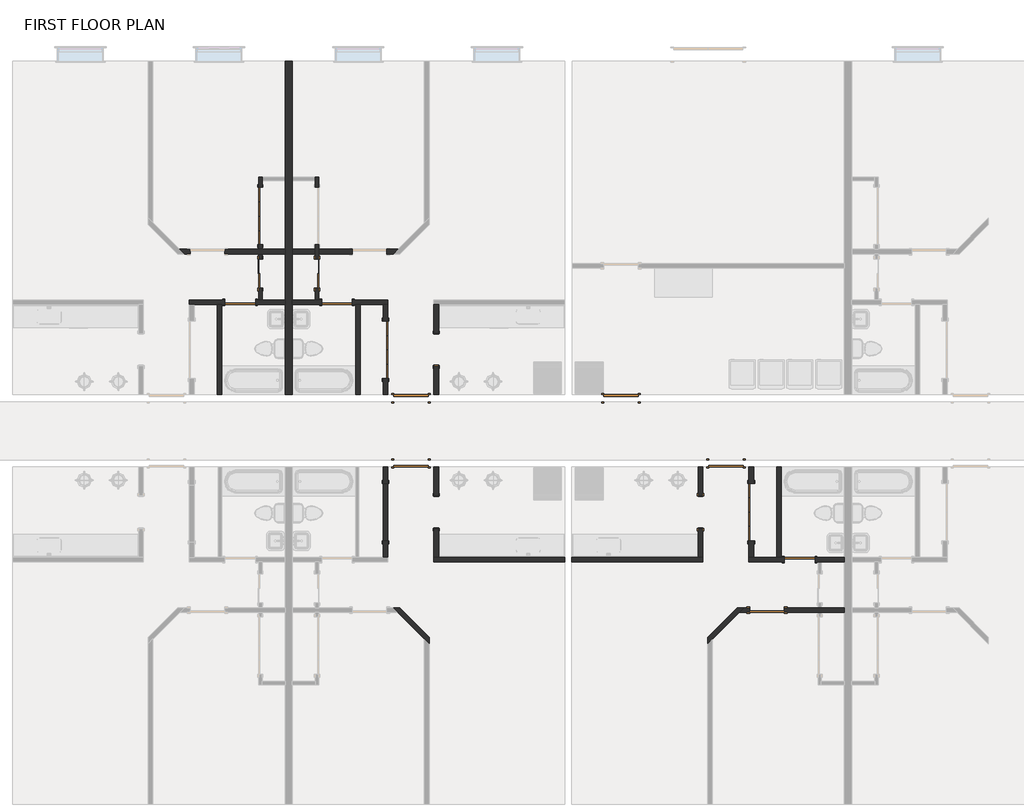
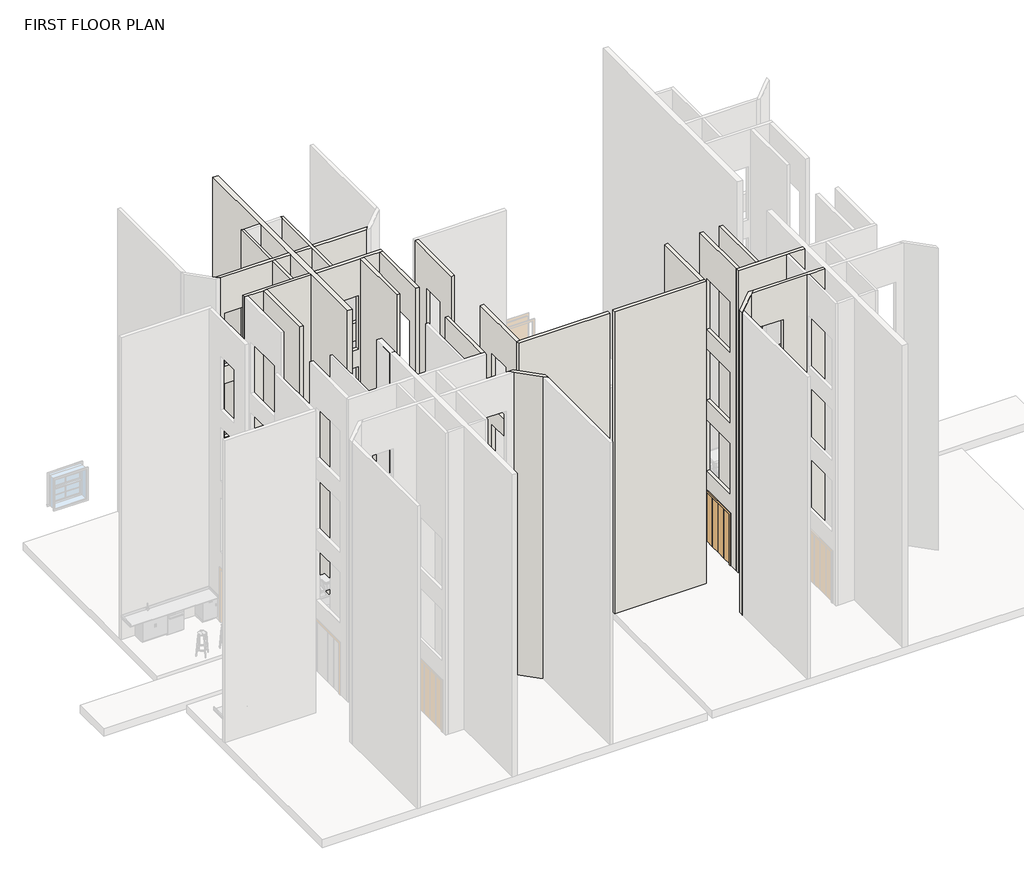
# One storey, part 2 of 7: 25 walls, 17 doors.
"""IFC4 building model written with IfcOpenShell, lengths in millimetres."""

from ifc_helpers import new_model, si_unit, frame, origin, origin_with_axes, place, context, project, spatial, polyline, outline, extrude, faceted_brep, transform, mapped, element, save
from components import door_3f50ce46, door_64f38517, door_d932cd56, door_980512ef, door_37c67c65, door_ff2ed9a9, door_670c294a, m_single_flush_3_x_7_d4803db9, door_dc1527fd, door_ed16ebbe, door_053de108, door_d5256492

model = new_model("IFC4")

# Units and contexts
model_context = context("Model", 3, world=origin())
ifc_project = project(units=[si_unit("LENGTHUNIT", "METRE", prefix="MILLI")], contexts=[model_context])

# Site, building, storey
site = spatial("IfcSite", under=ifc_project)
building = spatial("IfcBuilding", under=site)
storey = spatial("IfcBuildingStorey", under=building, Name="FIRST FLOOR PLAN", Elevation=0.0)

# Doors
placement = place(None, origin())
door_shape = door_3f50ce46(model_context)
element("IfcDoor", 1, ObjectType="Door-Bifold_2-Panel_Flush_SlimFold_Dunbarton : 2'- 6\" x 6' - 8\"", at=placement, inside=storey, context=model_context, shape_type="MappedRepresentation", body=[
    mapped(door_shape, transform((2885.3209578, 9824.3262881, 0.0), x_axis=(0.0, -1.0, 0.0), y_axis=(1.0, 0.0, 0.0), z_axis=(0.0, 0.0, 1.0))),
])
door_2_shape = door_64f38517(model_context)
element("IfcDoor", 2, ObjectType="Door-Bifold_2-Panel_Flush_SlimFold_Dunbarton : 2'- 6\" x 6' - 8\"", at=placement, inside=storey, context=model_context, shape_type="MappedRepresentation", body=[
    mapped(door_2_shape, transform((1351.2960171, 9824.3262881, 0.0), x_axis=(0.0, -1.0, 0.0), y_axis=(1.0, 0.0, 0.0), z_axis=(0.0, 0.0, 1.0))),
])
door_3_shape = door_d932cd56(model_context)
element("IfcDoor", 3, ObjectType="Door-Bifold 4-Panel Flush SlimFold_Dunbarton : 5'- 0\" x 6' - 8\"", at=placement, inside=storey, context=model_context, shape_type="MappedRepresentation", body=[
    mapped(door_3_shape, transform((4703.0084578, 7654.2137881, 0.0), x_axis=(0.0, -1.0, 0.0), y_axis=(1.0, 0.0, 0.0), z_axis=(0.0, 0.0, 1.0))),
])
element("IfcDoor", 4, ObjectType="Door-Bifold 4-Panel Flush SlimFold_Dunbarton : 5'- 0\" x 6' - 8\"", at=placement, inside=storey, context=model_context, shape_type="MappedRepresentation", body=[
    mapped(door_3_shape, transform((14358.8085171, 3345.4137881, 0.0), x_axis=(0.0, 1.0, 0.0), y_axis=(-1.0, 0.0, 0.0), z_axis=(0.0, 0.0, 1.0))),
])
door_4_shape = door_980512ef(model_context)
element("IfcDoor", 5, ObjectType="Door-Bifold 4-Panel Flush SlimFold_Dunbarton : 5'- 0\" x 6' - 8\"", at=placement, inside=storey, context=model_context, shape_type="MappedRepresentation", body=[
    mapped(door_4_shape, transform((4703.0084578, 3345.4137881, 0.0), x_axis=(0.0, 1.0, 0.0), y_axis=(-1.0, 0.0, 0.0), z_axis=(0.0, 0.0, 1.0))),
])
door_5_shape = door_37c67c65(model_context)
element("IfcDoor", 6, ObjectType="Door-Bifold 4-Panel Flush SlimFold_Dunbarton : 5'- 0\" x 6' - 8\"", at=placement, inside=storey, context=model_context, shape_type="MappedRepresentation", body=[
    mapped(door_5_shape, transform((1351.2960171, 11195.9262881, 0.0), x_axis=(0.0, -1.0, 0.0), y_axis=(1.0, 0.0, 0.0), z_axis=(0.0, 0.0, 1.0))),
])
door_6_shape = door_ff2ed9a9(model_context)
element("IfcDoor", 7, ObjectType="M_Opening-Cased : 2'-10\"", at=placement, inside=storey, context=model_context, shape_type="MappedRepresentation", body=[
    mapped(door_6_shape, transform((6030.0709875, 3337.2251313, 0.0), x_axis=(0.0, -1.0, 0.0), y_axis=(1.0, 0.0, 0.0), z_axis=(0.0, 0.0, 1.0))),
])
door_7_shape = door_670c294a(model_context)
element("IfcDoor", 8, ObjectType="M_Opening-Cased : 2'-10\"", at=placement, inside=storey, context=model_context, shape_type="MappedRepresentation", body=[
    mapped(door_7_shape, transform((6030.0709875, 7662.4024448, 0.0), x_axis=(0.0, 1.0, 0.0), y_axis=(-1.0, 0.0, 0.0), z_axis=(0.0, 0.0, 1.0))),
])
element("IfcDoor", 9, ObjectType="M_Opening-Cased : 2'-10\"", at=placement, inside=storey, context=model_context, shape_type="MappedRepresentation", body=[
    mapped(door_7_shape, transform((13031.7459875, 3337.2251313, 0.0), x_axis=(0.0, -1.0, 0.0), y_axis=(1.0, 0.0, 0.0), z_axis=(0.0, 0.0, 1.0))),
])
m_single_flush_3_x_7_shape = m_single_flush_3_x_7_d4803db9(model_context)
element("IfcDoor", 10, ObjectType="M_Single-Flush : 3' x 7'", at=placement, inside=storey, context=model_context, shape_type="MappedRepresentation", body=[
    mapped(m_single_flush_3_x_7_shape, transform((14795.6209875, 746.6762881, 0.0), x_axis=(-1.0, 0.0, 0.0), y_axis=(0.0, -1.0, 0.0), z_axis=(0.0, 0.0, 1.0))),
])
door_8_shape = door_dc1527fd(model_context)
element("IfcDoor", 11, ObjectType="Single-Flush : 32\" X 84\"", at=placement, inside=storey, context=model_context, shape_type="MappedRepresentation", body=[
    mapped(door_8_shape, transform((834.0209875, 8909.9262881, 0.0), x_axis=(-1.0, 0.0, 0.0), y_axis=(0.0, -1.0, 0.0), z_axis=(0.0, 0.0, 1.0))),
])
door_9_shape = door_ed16ebbe(model_context)
element("IfcDoor", 12, ObjectType="Single-Flush : 32\" X 84\"", at=placement, inside=storey, context=model_context, shape_type="MappedRepresentation", body=[
    mapped(door_9_shape, transform((3402.5959875, 8909.9262881, 0.0), x_axis=(1.0, 0.0, 0.0), y_axis=(0.0, 1.0, 0.0), z_axis=(0.0, 0.0, 1.0))),
])
element("IfcDoor", 13, ObjectType="Single-Flush : 32\" X 84\"", at=placement, inside=storey, context=model_context, shape_type="MappedRepresentation", body=[
    mapped(door_9_shape, transform((15659.2209875, 2089.7012881, 0.0), x_axis=(-1.0, 0.0, 0.0), y_axis=(0.0, -1.0, 0.0), z_axis=(0.0, 0.0, 1.0))),
])
door_10_shape = door_053de108(model_context)
element("IfcDoor", 14, ObjectType="Single-Flush : 36' x 84\"", at=placement, inside=storey, context=model_context, shape_type="MappedRepresentation", body=[
    mapped(door_10_shape, transform((5358.5584875, 6363.4137881, 0.0), x_axis=(1.0, 0.0, 0.0), y_axis=(0.0, 1.0, 0.0), z_axis=(0.0, 0.0, 1.0))),
])
element("IfcDoor", 15, ObjectType="Single-Flush : 36' x 84\"", at=placement, inside=storey, context=model_context, shape_type="MappedRepresentation", body=[
    mapped(door_10_shape, transform((13703.2584875, 4636.2137881, 0.0), x_axis=(-1.0, 0.0, 0.0), y_axis=(0.0, -1.0, 0.0), z_axis=(0.0, 0.0, 1.0))),
])
door_11_shape = door_d5256492(model_context)
element("IfcDoor", 16, ObjectType="Single-Flush : 36' x 84\"", at=placement, inside=storey, context=model_context, shape_type="MappedRepresentation", body=[
    mapped(door_11_shape, transform((10922.9084875, 6363.4137881, 0.0), x_axis=(-1.0, 0.0, 0.0), y_axis=(0.0, -1.0, 0.0), z_axis=(0.0, 0.0, 1.0))),
])
element("IfcDoor", 17, ObjectType="Single-Flush : 36' x 84\"", at=placement, inside=storey, context=model_context, shape_type="MappedRepresentation", body=[
    mapped(door_11_shape, transform((5358.5584875, 4636.2137881, 0.0), x_axis=(1.0, 0.0, 0.0), y_axis=(0.0, 1.0, 0.0), z_axis=(0.0, 0.0, 1.0))),
])

# Walls
element("IfcWall", 18, ObjectType="A30A - 8\" MASONRY WALL", at=placement, inside=storey, context=model_context, shape_type="Brep", body=[
    faceted_brep([(2021.3084875, 15304.2137881, 0.0), (2021.3084875, 12227.8012881, 0.0), (2021.3084875, 12138.9012881, 0.0), (2021.3084875, 10314.8637881, 0.0), (2021.3084875, 10191.0387881, 0.0), (2021.3084875, 8971.8387881, 0.0), (2021.3084875, 8848.0137881, 0.0), (2021.3084875, 6460.4137881, 0.0), (2021.3084875, 6460.4137881, 12141.2), (2021.3084875, 8848.0137881, 12141.2), (2021.3084875, 8971.8387881, 12141.2), (2021.3084875, 10191.0387881, 12141.2), (2021.3084875, 10314.8637881, 12141.2), (2021.3084875, 12138.9012881, 12141.2), (2021.3084875, 12227.8012881, 12141.2), (2021.3084875, 15304.2137881, 12141.2), (2215.3084875, 15304.2137881, 0.0), (2215.3084875, 15304.2137881, 12141.2), (2215.3084875, 12227.8012881, 12141.2), (2215.3084875, 12138.9012881, 12141.2), (2215.3084875, 10314.8637881, 12141.2), (2215.3084875, 10191.0387881, 12141.2), (2215.3084875, 8971.8387881, 12141.2), (2215.3084875, 8848.0137881, 12141.2), (2215.3084875, 6460.4137881, 12141.2), (2215.3084875, 6460.4137881, 0.0), (2215.3084875, 8848.0137881, 0.0), (2215.3084875, 8971.8387881, 0.0), (2215.3084875, 10191.0387881, 0.0), (2215.3084875, 10314.8637881, 0.0), (2215.3084875, 12138.9012881, 0.0), (2215.3084875, 12227.8012881, 0.0)], [[[0, 1, 2, 3, 4, 5, 6, 7, 8, 9, 10, 11, 12, 13, 14, 15]], [[16, 17, 18, 19, 20, 21, 22, 23, 24, 25, 26, 27, 28, 29, 30, 31]], [[7, 6, 5, 4, 3, 2, 1, 0, 16, 31, 30, 29, 28, 27, 26, 25]], [[15, 14, 13, 12, 11, 10, 9, 8, 24, 23, 22, 21, 20, 19, 18, 17]], [[0, 15, 17, 16]], [[8, 7, 25, 24]]]),
])
element("IfcWall", 19, ObjectType="A30A - 8\" MASONRY WALL", at=placement, inside=storey, context=model_context, shape_type="SweptSolid", body=[
    extrude(outline(polyline([(2215.3084875, 4539.2137881), (2215.3084875, 3662.9137881), (2021.3084875, 3662.9137881), (2021.3084875, 4539.2137881), (2215.3084875, 4539.2137881)])), origin_with_axes(), (0.0, 0.0, 1.0), 12141.2),
])
element("IfcWall", 20, ObjectType="Generic - 3 1/2\"", at=placement, inside=storey, context=model_context, shape_type="Brep", body=[
    faceted_brep([(1411.7084875, 12227.8012881, 0.0), (1411.7084875, 12227.8012881, 12141.2), (1411.7084875, 12138.9012881, 12141.2), (1411.7084875, 10314.8637881, 12141.2), (1411.7084875, 10314.8637881, 0.0), (1411.7084875, 10433.9262881, 0.0), (1411.7084875, 10433.9262881, 2032.0), (1411.7084875, 11957.9262881, 2032.0), (1411.7084875, 11957.9262881, 0.0), (1411.7084875, 12138.9012881, 0.0), (1411.7084875, 11961.1012881, 4876.8), (1411.7084875, 11961.1012881, 2844.8), (1411.7084875, 10437.1012881, 2844.8), (1411.7084875, 10437.1012881, 4876.8), (1411.7084875, 11961.1012881, 7721.6), (1411.7084875, 11961.1012881, 5689.6), (1411.7084875, 10437.1012881, 5689.6), (1411.7084875, 10437.1012881, 7721.6), (1411.7084875, 11961.1012881, 10566.4), (1411.7084875, 11961.1012881, 8534.4), (1411.7084875, 10437.1012881, 8534.4), (1411.7084875, 10437.1012881, 10566.4), (1322.8084875, 12227.8012881, 12141.2), (1322.8084875, 12227.8012881, 0.0), (1322.8084875, 11957.9262881, 0.0), (1322.8084875, 11957.9262881, 2032.0), (1322.8084875, 10433.9262881, 2032.0), (1322.8084875, 10433.9262881, 0.0), (1322.8084875, 10314.8637881, 0.0), (1322.8084875, 10314.8637881, 12141.2), (1322.8084875, 11961.1012881, 2844.8), (1322.8084875, 11961.1012881, 4876.8), (1322.8084875, 10437.1012881, 4876.8), (1322.8084875, 10437.1012881, 2844.8), (1322.8084875, 11961.1012881, 5689.6), (1322.8084875, 11961.1012881, 7721.6), (1322.8084875, 10437.1012881, 7721.6), (1322.8084875, 10437.1012881, 5689.6), (1322.8084875, 11961.1012881, 8534.4), (1322.8084875, 11961.1012881, 10566.4), (1322.8084875, 10437.1012881, 10566.4), (1322.8084875, 10437.1012881, 8534.4)], [[[0, 1, 2, 3, 4, 5, 6, 7, 8, 9], [10, 11, 12, 13], [14, 15, 16, 17], [18, 19, 20, 21]], [[22, 23, 24, 25, 26, 27, 28, 29], [30, 31, 32, 33], [34, 35, 36, 37], [38, 39, 40, 41]], [[23, 0, 9, 8, 24]], [[27, 5, 4, 28]], [[1, 22, 29, 3, 2]], [[1, 0, 23, 22]], [[26, 6, 5, 27]], [[6, 26, 25, 7]], [[7, 25, 24, 8]], [[4, 3, 29, 28]], [[31, 30, 11, 10]], [[32, 31, 10, 13]], [[33, 32, 13, 12]], [[30, 33, 12, 11]], [[35, 34, 15, 14]], [[36, 35, 14, 17]], [[37, 36, 17, 16]], [[34, 37, 16, 15]], [[39, 38, 19, 18]], [[40, 39, 18, 21]], [[41, 40, 21, 20]], [[38, 41, 20, 19]]]),
    faceted_brep([(1411.7084875, 8971.8387881, 12141.2), (1411.7084875, 8971.8387881, 0.0), (1411.7084875, 9290.9262881, 0.0), (1411.7084875, 9290.9262881, 2032.0), (1411.7084875, 10052.9262881, 2032.0), (1411.7084875, 10052.9262881, 0.0), (1411.7084875, 10191.0387881, 0.0), (1411.7084875, 10191.0387881, 12141.2), (1411.7084875, 9297.2762881, 2844.8), (1411.7084875, 9297.2762881, 4876.8), (1411.7084875, 10059.2762881, 4876.8), (1411.7084875, 10059.2762881, 2844.8), (1411.7084875, 9297.2762881, 5689.6), (1411.7084875, 9297.2762881, 7721.6), (1411.7084875, 10059.2762881, 7721.6), (1411.7084875, 10059.2762881, 5689.6), (1411.7084875, 9297.2762881, 8534.4), (1411.7084875, 9297.2762881, 10566.4), (1411.7084875, 10059.2762881, 10566.4), (1411.7084875, 10059.2762881, 8534.4), (1322.8084875, 8971.8387881, 0.0), (1322.8084875, 8971.8387881, 12141.2), (1322.8084875, 10191.0387881, 12141.2), (1322.8084875, 10191.0387881, 0.0), (1322.8084875, 10052.9262881, 0.0), (1322.8084875, 10052.9262881, 2032.0), (1322.8084875, 9290.9262881, 2032.0), (1322.8084875, 9290.9262881, 0.0), (1322.8084875, 9297.2762881, 4876.8), (1322.8084875, 9297.2762881, 2844.8), (1322.8084875, 10059.2762881, 2844.8), (1322.8084875, 10059.2762881, 4876.8), (1322.8084875, 9297.2762881, 7721.6), (1322.8084875, 9297.2762881, 5689.6), (1322.8084875, 10059.2762881, 5689.6), (1322.8084875, 10059.2762881, 7721.6), (1322.8084875, 9297.2762881, 10566.4), (1322.8084875, 9297.2762881, 8534.4), (1322.8084875, 10059.2762881, 8534.4), (1322.8084875, 10059.2762881, 10566.4)], [[[0, 1, 2, 3, 4, 5, 6, 7], [8, 9, 10, 11], [12, 13, 14, 15], [16, 17, 18, 19]], [[20, 21, 22, 23, 24, 25, 26, 27], [28, 29, 30, 31], [32, 33, 34, 35], [36, 37, 38, 39]], [[1, 20, 27, 2]], [[5, 24, 23, 6]], [[21, 0, 7, 22]], [[7, 6, 23, 22]], [[1, 0, 21, 20]], [[25, 4, 3, 26]], [[4, 25, 24, 5]], [[26, 3, 2, 27]], [[9, 8, 29, 28]], [[10, 9, 28, 31]], [[11, 10, 31, 30]], [[8, 11, 30, 29]], [[13, 12, 33, 32]], [[14, 13, 32, 35]], [[15, 14, 35, 34]], [[12, 15, 34, 33]], [[17, 16, 37, 36]], [[18, 17, 36, 39]], [[19, 18, 39, 38]], [[16, 19, 38, 37]]]),
])
element("IfcWall", 21, ObjectType="Generic - 3 1/2\"", at=placement, inside=storey, context=model_context, shape_type="Brep", body=[
    faceted_brep([(2913.8084875, 12227.8012881, 12141.2), (2913.8084875, 10314.8637881, 12141.2), (2913.8084875, 10191.0387881, 12141.2), (2913.8084875, 8971.8387881, 12141.2), (2913.8084875, 8971.8387881, 0.0), (2913.8084875, 9290.9262881, 0.0), (2913.8084875, 9290.9262881, 2032.0), (2913.8084875, 10052.9262881, 2032.0), (2913.8084875, 10052.9262881, 0.0), (2913.8084875, 10191.0387881, 0.0), (2913.8084875, 10314.8637881, 0.0), (2913.8084875, 10433.9262881, 0.0), (2913.8084875, 10433.9262881, 2032.0), (2913.8084875, 11957.9262881, 2032.0), (2913.8084875, 11957.9262881, 0.0), (2913.8084875, 12227.8012881, 0.0), (2913.8084875, 10437.1012881, 2844.8), (2913.8084875, 10437.1012881, 4876.8), (2913.8084875, 11961.1012881, 4876.8), (2913.8084875, 11961.1012881, 2844.8), (2913.8084875, 9297.2762881, 2844.8), (2913.8084875, 9297.2762881, 4876.8), (2913.8084875, 10059.2762881, 4876.8), (2913.8084875, 10059.2762881, 2844.8), (2913.8084875, 10437.1012881, 5689.6), (2913.8084875, 10437.1012881, 7721.6), (2913.8084875, 11961.1012881, 7721.6), (2913.8084875, 11961.1012881, 5689.6), (2913.8084875, 9297.2762881, 5689.6), (2913.8084875, 9297.2762881, 7721.6), (2913.8084875, 10059.2762881, 7721.6), (2913.8084875, 10059.2762881, 5689.6), (2913.8084875, 10437.1012881, 8534.4), (2913.8084875, 10437.1012881, 10566.4), (2913.8084875, 11961.1012881, 10566.4), (2913.8084875, 11961.1012881, 8534.4), (2913.8084875, 9297.2762881, 8534.4), (2913.8084875, 9297.2762881, 10566.4), (2913.8084875, 10059.2762881, 10566.4), (2913.8084875, 10059.2762881, 8534.4), (2824.9084875, 8971.8387881, 12141.2), (2824.9084875, 10191.0387881, 12141.2), (2824.9084875, 10314.8637881, 12141.2), (2824.9084875, 12138.9012881, 12141.2), (2824.9084875, 12227.8012881, 12141.2), (2824.9084875, 12227.8012881, 0.0), (2824.9084875, 12138.9012881, 0.0), (2824.9084875, 11957.9262881, 0.0), (2824.9084875, 11957.9262881, 2032.0), (2824.9084875, 10433.9262881, 2032.0), (2824.9084875, 10433.9262881, 0.0), (2824.9084875, 10314.8637881, 0.0), (2824.9084875, 10191.0387881, 0.0), (2824.9084875, 10052.9262881, 0.0), (2824.9084875, 10052.9262881, 2032.0), (2824.9084875, 9290.9262881, 2032.0), (2824.9084875, 9290.9262881, 0.0), (2824.9084875, 8971.8387881, 0.0), (2824.9084875, 10437.1012881, 2844.8), (2824.9084875, 11961.1012881, 2844.8), (2824.9084875, 11961.1012881, 4876.8), (2824.9084875, 10437.1012881, 4876.8), (2824.9084875, 9297.2762881, 2844.8), (2824.9084875, 10059.2762881, 2844.8), (2824.9084875, 10059.2762881, 4876.8), (2824.9084875, 9297.2762881, 4876.8), (2824.9084875, 10437.1012881, 5689.6), (2824.9084875, 11961.1012881, 5689.6), (2824.9084875, 11961.1012881, 7721.6), (2824.9084875, 10437.1012881, 7721.6), (2824.9084875, 9297.2762881, 5689.6), (2824.9084875, 10059.2762881, 5689.6), (2824.9084875, 10059.2762881, 7721.6), (2824.9084875, 9297.2762881, 7721.6), (2824.9084875, 10437.1012881, 8534.4), (2824.9084875, 11961.1012881, 8534.4), (2824.9084875, 11961.1012881, 10566.4), (2824.9084875, 10437.1012881, 10566.4), (2824.9084875, 9297.2762881, 8534.4), (2824.9084875, 10059.2762881, 8534.4), (2824.9084875, 10059.2762881, 10566.4), (2824.9084875, 9297.2762881, 10566.4)], [[[0, 1, 2, 3, 4, 5, 6, 7, 8, 9, 10, 11, 12, 13, 14, 15], [16, 17, 18, 19], [20, 21, 22, 23], [24, 25, 26, 27], [28, 29, 30, 31], [32, 33, 34, 35], [36, 37, 38, 39]], [[40, 41, 42, 43, 44, 45, 46, 47, 48, 49, 50, 51, 52, 53, 54, 55, 56, 57], [58, 59, 60, 61], [62, 63, 64, 65], [66, 67, 68, 69], [70, 71, 72, 73], [74, 75, 76, 77], [78, 79, 80, 81]], [[45, 15, 14, 47, 46]], [[50, 11, 10, 9, 8, 53, 52, 51]], [[4, 57, 56, 5]], [[3, 2, 1, 0, 44, 43, 42, 41, 40]], [[0, 15, 45, 44]], [[49, 12, 11, 50]], [[12, 49, 48, 13]], [[13, 48, 47, 14]], [[4, 3, 40, 57]], [[6, 55, 54, 7]], [[7, 54, 53, 8]], [[55, 6, 5, 56]], [[17, 16, 58, 61]], [[18, 17, 61, 60]], [[19, 18, 60, 59]], [[16, 19, 59, 58]], [[21, 20, 62, 65]], [[22, 21, 65, 64]], [[23, 22, 64, 63]], [[20, 23, 63, 62]], [[25, 24, 66, 69]], [[26, 25, 69, 68]], [[27, 26, 68, 67]], [[24, 27, 67, 66]], [[29, 28, 70, 73]], [[30, 29, 73, 72]], [[31, 30, 72, 71]], [[28, 31, 71, 70]], [[33, 32, 74, 77]], [[34, 33, 77, 76]], [[35, 34, 76, 75]], [[32, 35, 75, 74]], [[37, 36, 78, 81]], [[38, 37, 81, 80]], [[39, 38, 80, 79]], [[36, 39, 79, 78]]]),
])
element("IfcWall", 22, ObjectType="Generic - 4 7/8\"", at=placement, inside=storey, context=model_context, shape_type="Brep", body=[
    faceted_brep([(-512.3415125, 8848.0137881, 0.0), (-388.5165125, 8848.0137881, 0.0), (221.0834875, 8848.0137881, 0.0), (344.9084875, 8848.0137881, 0.0), (427.6209875, 8848.0137881, 0.0), (427.6209875, 8848.0137881, 2133.6), (1240.4209875, 8848.0137881, 2133.6), (1240.4209875, 8848.0137881, 0.0), (2021.3084875, 8848.0137881, 0.0), (2021.3084875, 8848.0137881, 12141.2), (344.9084875, 8848.0137881, 12141.2), (221.0834875, 8848.0137881, 12141.2), (-388.5165125, 8848.0137881, 12141.2), (-512.3415125, 8848.0137881, 12141.2), (1240.4209875, 8848.0137881, 2844.8), (427.6209875, 8848.0137881, 2844.8), (427.6209875, 8848.0137881, 4978.4), (1240.4209875, 8848.0137881, 4978.4), (1240.4209875, 8848.0137881, 5689.6), (427.6209875, 8848.0137881, 5689.6), (427.6209875, 8848.0137881, 7823.2), (1240.4209875, 8848.0137881, 7823.2), (1240.4209875, 8848.0137881, 8534.4), (427.6209875, 8848.0137881, 8534.4), (427.6209875, 8848.0137881, 10668.0), (1240.4209875, 8848.0137881, 10668.0), (427.6209875, 8971.8387881, 2133.6), (427.6209875, 8971.8387881, 0.0), (-512.3415125, 8971.8387881, 0.0), (-512.3415125, 8971.8387881, 12141.2), (1322.8084875, 8971.8387881, 12141.2), (1411.7084875, 8971.8387881, 12141.2), (2021.3084875, 8971.8387881, 12141.2), (2021.3084875, 8971.8387881, 0.0), (1411.7084875, 8971.8387881, 0.0), (1322.8084875, 8971.8387881, 0.0), (1240.4209875, 8971.8387881, 0.0), (1240.4209875, 8971.8387881, 2133.6), (1240.4209875, 8971.8387881, 2844.8), (1240.4209875, 8971.8387881, 4978.4), (427.6209875, 8971.8387881, 4978.4), (427.6209875, 8971.8387881, 2844.8), (1240.4209875, 8971.8387881, 5689.6), (1240.4209875, 8971.8387881, 7823.2), (427.6209875, 8971.8387881, 7823.2), (427.6209875, 8971.8387881, 5689.6), (1240.4209875, 8971.8387881, 8534.4), (1240.4209875, 8971.8387881, 10668.0), (427.6209875, 8971.8387881, 10668.0), (427.6209875, 8971.8387881, 8534.4)], [[[0, 1, 2, 3, 4, 5, 6, 7, 8, 9, 10, 11, 12, 13], [14, 15, 16, 17], [18, 19, 20, 21], [22, 23, 24, 25]], [[26, 27, 28, 29, 30, 31, 32, 33, 34, 35, 36, 37], [38, 39, 40, 41], [42, 43, 44, 45], [46, 47, 48, 49]], [[28, 27, 4, 3, 2, 1, 0]], [[36, 35, 34, 33, 8, 7]], [[13, 12, 11, 10, 9, 32, 31, 30, 29]], [[9, 8, 33, 32]], [[15, 14, 38, 41]], [[16, 15, 41, 40]], [[17, 16, 40, 39]], [[14, 17, 39, 38]], [[0, 13, 29, 28]], [[5, 4, 27, 26]], [[6, 5, 26, 37]], [[7, 6, 37, 36]], [[19, 18, 42, 45]], [[20, 19, 45, 44]], [[21, 20, 44, 43]], [[18, 21, 43, 42]], [[23, 22, 46, 49]], [[24, 23, 49, 48]], [[25, 24, 48, 47]], [[22, 25, 47, 46]]]),
])
element("IfcWall", 23, ObjectType="Generic - 4 7/8\"", at=placement, inside=storey, context=model_context, shape_type="SweptSolid", body=[
    extrude(outline(polyline([(221.0834875, 6460.4137881), (221.0834875, 8848.0137881), (344.9084875, 8848.0137881), (344.9084875, 6460.4137881), (221.0834875, 6460.4137881)])), origin_with_axes(), (0.0, 0.0, 1.0), 12141.2),
])
element("IfcWall", 24, ObjectType="Generic - 4 7/8\"", at=placement, inside=storey, context=model_context, shape_type="Brep", body=[
    faceted_brep([(-486.7790125, 10314.8637881, 2133.6), (-486.7790125, 10314.8637881, 0.0), (-773.5985736, 10314.8637881, 0.0), (-773.5985736, 10314.8637881, 12141.2), (1322.8084875, 10314.8637881, 12141.2), (1411.7084875, 10314.8637881, 12141.2), (2021.3084875, 10314.8637881, 12141.2), (2021.3084875, 10314.8637881, 0.0), (1411.7084875, 10314.8637881, 0.0), (1322.8084875, 10314.8637881, 0.0), (427.6209875, 10314.8637881, 0.0), (427.6209875, 10314.8637881, 2133.6), (427.6209875, 10314.8637881, 2844.8), (427.6209875, 10314.8637881, 4978.4), (-486.7790125, 10314.8637881, 4978.4), (-486.7790125, 10314.8637881, 2844.8), (427.6209875, 10314.8637881, 5689.6), (427.6209875, 10314.8637881, 7823.2), (-486.7790125, 10314.8637881, 7823.2), (-486.7790125, 10314.8637881, 5689.6), (427.6209875, 10314.8637881, 8534.4), (427.6209875, 10314.8637881, 10668.0), (-486.7790125, 10314.8637881, 10668.0), (-486.7790125, 10314.8637881, 8534.4), (-649.7735736, 10191.0387881, 0.0), (-486.7790125, 10191.0387881, 0.0), (-486.7790125, 10191.0387881, 2133.6), (427.6209875, 10191.0387881, 2133.6), (427.6209875, 10191.0387881, 0.0), (1322.8084875, 10191.0387881, 0.0), (1411.7084875, 10191.0387881, 0.0), (2021.3084875, 10191.0387881, 0.0), (2021.3084875, 10191.0387881, 12141.2), (1411.7084875, 10191.0387881, 12141.2), (1322.8084875, 10191.0387881, 12141.2), (-649.7735736, 10191.0387881, 12141.2), (427.6209875, 10191.0387881, 2844.8), (-486.7790125, 10191.0387881, 2844.8), (-486.7790125, 10191.0387881, 4978.4), (427.6209875, 10191.0387881, 4978.4), (427.6209875, 10191.0387881, 5689.6), (-486.7790125, 10191.0387881, 5689.6), (-486.7790125, 10191.0387881, 7823.2), (427.6209875, 10191.0387881, 7823.2), (427.6209875, 10191.0387881, 8534.4), (-486.7790125, 10191.0387881, 8534.4), (-486.7790125, 10191.0387881, 10668.0), (427.6209875, 10191.0387881, 10668.0)], [[[0, 1, 2, 3, 4, 5, 6, 7, 8, 9, 10, 11], [12, 13, 14, 15], [16, 17, 18, 19], [20, 21, 22, 23]], [[24, 25, 26, 27, 28, 29, 30, 31, 32, 33, 34, 35], [36, 37, 38, 39], [40, 41, 42, 43], [44, 45, 46, 47]], [[2, 1, 25, 24]], [[10, 9, 8, 7, 31, 30, 29, 28]], [[6, 5, 4, 3, 35, 34, 33, 32]], [[7, 6, 32, 31]], [[26, 25, 1, 0]], [[27, 26, 0, 11]], [[28, 27, 11, 10]], [[3, 2, 24, 35]], [[37, 36, 12, 15]], [[38, 37, 15, 14]], [[39, 38, 14, 13]], [[36, 39, 13, 12]], [[41, 40, 16, 19]], [[42, 41, 19, 18]], [[43, 42, 18, 17]], [[40, 43, 17, 16]], [[45, 44, 20, 23]], [[46, 45, 23, 22]], [[47, 46, 22, 21]], [[44, 47, 21, 20]]]),
])
element("IfcWall", 25, ObjectType="Generic - 4 7/8\"", at=placement, inside=storey, context=model_context, shape_type="Brep", body=[
    faceted_brep([(4748.9584875, 8971.8387881, 0.0), (3808.9959875, 8971.8387881, 0.0), (3808.9959875, 8971.8387881, 2133.6), (2996.1959875, 8971.8387881, 2133.6), (2996.1959875, 8971.8387881, 0.0), (2913.8084875, 8971.8387881, 0.0), (2824.9084875, 8971.8387881, 0.0), (2215.3084875, 8971.8387881, 0.0), (2215.3084875, 8971.8387881, 12141.2), (2824.9084875, 8971.8387881, 12141.2), (2913.8084875, 8971.8387881, 12141.2), (4748.9584875, 8971.8387881, 12141.2), (2996.1959875, 8971.8387881, 2844.8), (3808.9959875, 8971.8387881, 2844.8), (3808.9959875, 8971.8387881, 4978.4), (2996.1959875, 8971.8387881, 4978.4), (2996.1959875, 8971.8387881, 5689.6), (3808.9959875, 8971.8387881, 5689.6), (3808.9959875, 8971.8387881, 7823.2), (2996.1959875, 8971.8387881, 7823.2), (2996.1959875, 8971.8387881, 8534.4), (3808.9959875, 8971.8387881, 8534.4), (3808.9959875, 8971.8387881, 10668.0), (2996.1959875, 8971.8387881, 10668.0), (3808.9959875, 8848.0137881, 2133.6), (3808.9959875, 8848.0137881, 0.0), (3891.7084875, 8848.0137881, 0.0), (4015.5334875, 8848.0137881, 0.0), (4625.1334875, 8848.0137881, 0.0), (4748.9584875, 8848.0137881, 0.0), (4748.9584875, 8848.0137881, 12141.2), (4625.1334875, 8848.0137881, 12141.2), (4015.5334875, 8848.0137881, 12141.2), (3891.7084875, 8848.0137881, 12141.2), (2215.3084875, 8848.0137881, 12141.2), (2215.3084875, 8848.0137881, 0.0), (2996.1959875, 8848.0137881, 0.0), (2996.1959875, 8848.0137881, 2133.6), (2996.1959875, 8848.0137881, 2844.8), (2996.1959875, 8848.0137881, 4978.4), (3808.9959875, 8848.0137881, 4978.4), (3808.9959875, 8848.0137881, 2844.8), (2996.1959875, 8848.0137881, 5689.6), (2996.1959875, 8848.0137881, 7823.2), (3808.9959875, 8848.0137881, 7823.2), (3808.9959875, 8848.0137881, 5689.6), (2996.1959875, 8848.0137881, 8534.4), (2996.1959875, 8848.0137881, 10668.0), (3808.9959875, 8848.0137881, 10668.0), (3808.9959875, 8848.0137881, 8534.4)], [[[0, 1, 2, 3, 4, 5, 6, 7, 8, 9, 10, 11], [12, 13, 14, 15], [16, 17, 18, 19], [20, 21, 22, 23]], [[24, 25, 26, 27, 28, 29, 30, 31, 32, 33, 34, 35, 36, 37], [38, 39, 40, 41], [42, 43, 44, 45], [46, 47, 48, 49]], [[36, 35, 7, 6, 5, 4]], [[29, 28, 27, 26, 25, 1, 0]], [[11, 10, 9, 8, 34, 33, 32, 31, 30]], [[2, 1, 25, 24]], [[3, 2, 24, 37]], [[4, 3, 37, 36]], [[0, 11, 30, 29]], [[8, 7, 35, 34]], [[13, 12, 38, 41]], [[14, 13, 41, 40]], [[15, 14, 40, 39]], [[12, 15, 39, 38]], [[17, 16, 42, 45]], [[18, 17, 45, 44]], [[19, 18, 44, 43]], [[16, 19, 43, 42]], [[21, 20, 46, 49]], [[22, 21, 49, 48]], [[23, 22, 48, 47]], [[20, 23, 47, 46]]]),
])
element("IfcWall", 26, ObjectType="Generic - 4 7/8\"", at=placement, inside=storey, context=model_context, shape_type="SweptSolid", body=[
    extrude(outline(polyline([(3891.7084875, 6460.4137881), (3891.7084875, 8848.0137881), (4015.5334875, 8848.0137881), (4015.5334875, 6460.4137881), (3891.7084875, 6460.4137881)])), origin_with_axes(), (0.0, 0.0, 1.0), 12141.2),
])
element("IfcWall", 27, ObjectType="Generic - 4 7/8\"", at=placement, inside=storey, context=model_context, shape_type="SweptSolid", body=[
    extrude(outline(polyline([(8848.0137881, 0.0), (8086.0137881, 0.0), (8086.0137881, 2133.6), (7222.4137881, 2133.6), (7222.4137881, 0.0), (6460.4137881, 0.0), (6460.4137881, 12141.2), (8848.0137881, 12141.2), (8848.0137881, 0.0)]), holes=[polyline([(7222.4137881, 4978.4), (7222.4137881, 2844.8), (8086.0137881, 2844.8), (8086.0137881, 4978.4), (7222.4137881, 4978.4)]), polyline([(7222.4137881, 7823.2), (7222.4137881, 5689.6), (8086.0137881, 5689.6), (8086.0137881, 7823.2), (7222.4137881, 7823.2)]), polyline([(7222.4137881, 10668.0), (7222.4137881, 8534.4), (8086.0137881, 8534.4), (8086.0137881, 10668.0), (7222.4137881, 10668.0)])]), frame((5968.1584875, 0.0, 0.0), z_axis=(1.0, 0.0, 0.0), x_axis=(0.0, 1.0, 0.0)), (0.0, 0.0, 1.0), 123.825),
])
element("IfcWall", 28, ObjectType="Generic - 4 7/8\"", at=placement, inside=storey, context=model_context, shape_type="SweptSolid", body=[
    extrude(outline(polyline([(6460.4137881, 12141.2), (8848.0137881, 12141.2), (8848.0137881, 0.0), (8416.2137881, 0.0), (8416.2137881, 2032.0), (6892.2137881, 2032.0), (6892.2137881, 0.0), (6460.4137881, 0.0), (6460.4137881, 12141.2)]), holes=[polyline([(6892.2137881, 2844.8), (8416.2137881, 2844.8), (8416.2137881, 4876.8), (6892.2137881, 4876.8), (6892.2137881, 2844.8)]), polyline([(6892.2137881, 5689.6), (8416.2137881, 5689.6), (8416.2137881, 7721.6), (6892.2137881, 7721.6), (6892.2137881, 5689.6)]), polyline([(6892.2137881, 8534.4), (8416.2137881, 8534.4), (8416.2137881, 10566.4), (6892.2137881, 10566.4), (6892.2137881, 8534.4)])]), frame((4625.1334875, 0.0, 0.0), z_axis=(1.0, 0.0, 0.0), x_axis=(0.0, 1.0, 0.0)), (0.0, 0.0, 1.0), 123.825),
])
element("IfcWall", 29, ObjectType="Generic - 4 7/8\"", at=placement, inside=storey, context=model_context, shape_type="Brep", body=[
    faceted_brep([(9428.1084875, 2151.6137881, 0.0), (6091.9834875, 2151.6137881, 0.0), (5968.1584875, 2151.6137881, 0.0), (5968.1584875, 2151.6137881, 12141.2), (6091.9834875, 2151.6137881, 12141.2), (9428.1084875, 2151.6137881, 12141.2), (9428.1084875, 2027.7887881, 0.0), (9428.1084875, 2027.7887881, 12141.2), (5968.1584875, 2027.7887881, 12141.2), (5968.1584875, 2027.7887881, 0.0)], [[[0, 1, 2, 3, 4, 5]], [[6, 7, 8, 9]], [[2, 1, 0, 6, 9]], [[5, 4, 3, 8, 7]], [[3, 2, 9, 8]], [[0, 5, 7, 6]]]),
])
element("IfcWall", 30, ObjectType="Generic - 4 7/8\"", at=placement, inside=storey, context=model_context, shape_type="SweptSolid", body=[
    extrude(outline(polyline([(2913.6137881, 2133.6), (2913.6137881, 0.0), (2151.6137881, 0.0), (2151.6137881, 12141.2), (4539.2137881, 12141.2), (4539.2137881, 0.0), (3777.2137881, 0.0), (3777.2137881, 2133.6), (2913.6137881, 2133.6)]), holes=[polyline([(3777.2137881, 4978.4), (2862.8137881, 4978.4), (2862.8137881, 2844.8), (3777.2137881, 2844.8), (3777.2137881, 4978.4)]), polyline([(3777.2137881, 7823.2), (2862.8137881, 7823.2), (2862.8137881, 5689.6), (3777.2137881, 5689.6), (3777.2137881, 7823.2)]), polyline([(3777.2137881, 10668.0), (2862.8137881, 10668.0), (2862.8137881, 8534.4), (3777.2137881, 8534.4), (3777.2137881, 10668.0)])]), frame((5968.1584875, 0.0, 0.0), z_axis=(1.0, 0.0, 0.0), x_axis=(0.0, 1.0, 0.0)), (0.0, 0.0, 1.0), 123.825),
])
element("IfcWall", 31, ObjectType="Generic - 4 7/8\"", at=placement, inside=storey, context=model_context, shape_type="SweptSolid", body=[
    extrude(outline(polyline([(2151.6137881, 12141.2), (4539.2137881, 12141.2), (4539.2137881, 0.0), (4107.4137881, 0.0), (4107.4137881, 2032.0), (2583.4137881, 2032.0), (2583.4137881, 0.0), (2151.6137881, 0.0), (2151.6137881, 12141.2)]), holes=[polyline([(4107.4137881, 2844.8), (4107.4137881, 4876.8), (2583.4137881, 4876.8), (2583.4137881, 2844.8), (4107.4137881, 2844.8)]), polyline([(4107.4137881, 5689.6), (4107.4137881, 7721.6), (2583.4137881, 7721.6), (2583.4137881, 5689.6), (4107.4137881, 5689.6)]), polyline([(4107.4137881, 8534.4), (4107.4137881, 10566.4), (2583.4137881, 10566.4), (2583.4137881, 8534.4), (4107.4137881, 8534.4)])]), frame((4625.1334875, 0.0, 0.0), z_axis=(1.0, 0.0, 0.0), x_axis=(0.0, 1.0, 0.0)), (0.0, 0.0, 1.0), 123.825),
])
element("IfcWall", 32, ObjectType="Generic - 4 7/8\"", at=placement, inside=storey, context=model_context, shape_type="Brep", body=[
    faceted_brep([(4886.3905485, 808.5887881, 0.0), (5010.2155485, 684.7637881, 0.0), (5713.9959875, -19.0166509, 0.0), (5837.8209875, -142.8416509, 0.0), (5837.8209875, -142.8416509, 12141.2), (5713.9959875, -19.0166509, 12141.2), (5010.2155485, 684.7637881, 12141.2), (4886.3905485, 808.5887881, 12141.2), (5061.5055429, 808.5887881, 0.0), (5061.5055429, 808.5887881, 12141.2), (5837.8209875, 32.2733435, 12141.2), (5837.8209875, 32.2733435, 0.0)], [[[0, 1, 2, 3, 4, 5, 6, 7]], [[8, 9, 10, 11]], [[3, 2, 1, 0, 8, 11]], [[7, 6, 5, 4, 10, 9]], [[0, 7, 9, 8]], [[4, 3, 11, 10]]]),
])
element("IfcWall", 33, ObjectType="Generic - 4 7/8\"", at=placement, inside=storey, context=model_context, shape_type="Brep", body=[
    faceted_brep([(14312.8584875, 2027.7887881, 0.0), (15252.8209875, 2027.7887881, 0.0), (15252.8209875, 2027.7887881, 2133.6), (16065.6209875, 2027.7887881, 2133.6), (16065.6209875, 2027.7887881, 0.0), (16148.0084875, 2027.7887881, 0.0), (16236.9084875, 2027.7887881, 0.0), (16845.7084875, 2027.7887881, 0.0), (16845.7084875, 2027.7887881, 12141.2), (16236.9084875, 2027.7887881, 12141.2), (16148.0084875, 2027.7887881, 12141.2), (14312.8584875, 2027.7887881, 12141.2), (16060.2084875, 2027.7887881, 2844.8), (15247.4084875, 2027.7887881, 2844.8), (15247.4084875, 2027.7887881, 4978.4), (16060.2084875, 2027.7887881, 4978.4), (16060.2084875, 2027.7887881, 5689.6), (15247.4084875, 2027.7887881, 5689.6), (15247.4084875, 2027.7887881, 7823.2), (16060.2084875, 2027.7887881, 7823.2), (16060.2084875, 2027.7887881, 8534.4), (15247.4084875, 2027.7887881, 8534.4), (15247.4084875, 2027.7887881, 10668.0), (16060.2084875, 2027.7887881, 10668.0), (15252.8209875, 2151.6137881, 2133.6), (15252.8209875, 2151.6137881, 0.0), (15170.1084875, 2151.6137881, 0.0), (15046.2834875, 2151.6137881, 0.0), (14436.6834875, 2151.6137881, 0.0), (14312.8584875, 2151.6137881, 0.0), (14312.8584875, 2151.6137881, 12141.2), (14436.6834875, 2151.6137881, 12141.2), (15046.2834875, 2151.6137881, 12141.2), (15170.1084875, 2151.6137881, 12141.2), (16845.7084875, 2151.6137881, 12141.2), (16845.7084875, 2151.6137881, 0.0), (16065.6209875, 2151.6137881, 0.0), (16065.6209875, 2151.6137881, 2133.6), (16060.2084875, 2151.6137881, 2844.8), (16060.2084875, 2151.6137881, 4978.4), (15247.4084875, 2151.6137881, 4978.4), (15247.4084875, 2151.6137881, 2844.8), (16060.2084875, 2151.6137881, 5689.6), (16060.2084875, 2151.6137881, 7823.2), (15247.4084875, 2151.6137881, 7823.2), (15247.4084875, 2151.6137881, 5689.6), (16060.2084875, 2151.6137881, 8534.4), (16060.2084875, 2151.6137881, 10668.0), (15247.4084875, 2151.6137881, 10668.0), (15247.4084875, 2151.6137881, 8534.4)], [[[0, 1, 2, 3, 4, 5, 6, 7, 8, 9, 10, 11], [12, 13, 14, 15], [16, 17, 18, 19], [20, 21, 22, 23]], [[24, 25, 26, 27, 28, 29, 30, 31, 32, 33, 34, 35, 36, 37], [38, 39, 40, 41], [42, 43, 44, 45], [46, 47, 48, 49]], [[36, 35, 7, 6, 5, 4]], [[29, 28, 27, 26, 25, 1, 0]], [[11, 10, 9, 8, 34, 33, 32, 31, 30]], [[2, 1, 25, 24]], [[3, 2, 24, 37]], [[4, 3, 37, 36]], [[0, 11, 30, 29]], [[8, 7, 35, 34]], [[13, 12, 38, 41]], [[14, 13, 41, 40]], [[15, 14, 40, 39]], [[12, 15, 39, 38]], [[17, 16, 42, 45]], [[18, 17, 45, 44]], [[19, 18, 44, 43]], [[16, 19, 43, 42]], [[21, 20, 46, 49]], [[22, 21, 49, 48]], [[23, 22, 48, 47]], [[20, 23, 47, 46]]]),
])
element("IfcWall", 34, ObjectType="Generic - 4 7/8\"", at=placement, inside=storey, context=model_context, shape_type="SweptSolid", body=[
    extrude(outline(polyline([(15170.1084875, 4539.2137881), (15170.1084875, 2151.6137881), (15046.2834875, 2151.6137881), (15046.2834875, 4539.2137881), (15170.1084875, 4539.2137881)])), origin_with_axes(), (0.0, 0.0, 1.0), 12141.2),
])
element("IfcWall", 35, ObjectType="Generic - 4 7/8\"", at=placement, inside=storey, context=model_context, shape_type="Brep", body=[
    faceted_brep([(9622.1084875, 2027.7887881, 0.0), (13093.6584875, 2027.7887881, 0.0), (13093.6584875, 2027.7887881, 12141.2), (9622.1084875, 2027.7887881, 12141.2), (9622.1084875, 2151.6137881, 0.0), (9622.1084875, 2151.6137881, 12141.2), (12969.8334875, 2151.6137881, 12141.2), (13093.6584875, 2151.6137881, 12141.2), (13093.6584875, 2151.6137881, 0.0), (12969.8334875, 2151.6137881, 0.0)], [[[0, 1, 2, 3]], [[4, 5, 6, 7, 8, 9]], [[1, 0, 4, 9, 8]], [[3, 2, 7, 6, 5]], [[2, 1, 8, 7]], [[0, 3, 5, 4]]]),
])
element("IfcWall", 36, ObjectType="Generic - 4 7/8\"", at=placement, inside=storey, context=model_context, shape_type="SweptSolid", body=[
    extrude(outline(polyline([(2913.6137881, 2133.6), (2913.6137881, 0.0), (2151.6137881, 0.0), (2151.6137881, 12141.2), (4539.2137881, 12141.2), (4539.2137881, 0.0), (3777.2137881, 0.0), (3777.2137881, 2133.6), (2913.6137881, 2133.6)]), holes=[polyline([(3777.2137881, 4978.4), (2862.8137881, 4978.4), (2862.8137881, 2844.8), (3777.2137881, 2844.8), (3777.2137881, 4978.4)]), polyline([(3777.2137881, 7823.2), (2862.8137881, 7823.2), (2862.8137881, 5689.6), (3777.2137881, 5689.6), (3777.2137881, 7823.2)]), polyline([(3777.2137881, 10668.0), (2862.8137881, 10668.0), (2862.8137881, 8534.4), (3777.2137881, 8534.4), (3777.2137881, 10668.0)])]), frame((12969.8334875, 0.0, 0.0), z_axis=(1.0, 0.0, 0.0), x_axis=(0.0, 1.0, 0.0)), (0.0, 0.0, 1.0), 123.825),
])
element("IfcWall", 37, ObjectType="Generic - 4 7/8\"", at=placement, inside=storey, context=model_context, shape_type="SweptSolid", body=[
    extrude(outline(polyline([(2151.6137881, 12141.2), (4539.2137881, 12141.2), (4539.2137881, 0.0), (4107.4137881, 0.0), (4107.4137881, 2032.0), (2583.4137881, 2032.0), (2583.4137881, 0.0), (2151.6137881, 0.0), (2151.6137881, 12141.2)]), holes=[polyline([(4107.4137881, 2844.8), (4107.4137881, 4876.8), (2583.4137881, 4876.8), (2583.4137881, 2844.8), (4107.4137881, 2844.8)]), polyline([(4107.4137881, 5689.6), (4107.4137881, 7721.6), (2583.4137881, 7721.6), (2583.4137881, 5689.6), (4107.4137881, 5689.6)]), polyline([(4107.4137881, 8534.4), (4107.4137881, 10566.4), (2583.4137881, 10566.4), (2583.4137881, 8534.4), (4107.4137881, 8534.4)])]), frame((14312.8584875, 0.0, 0.0), z_axis=(1.0, 0.0, 0.0), x_axis=(0.0, 1.0, 0.0)), (0.0, 0.0, 1.0), 123.825),
])
element("IfcWall", 38, ObjectType="Generic - 4 7/8\"", at=placement, inside=storey, context=model_context, shape_type="Brep", body=[
    faceted_brep([(14338.4209875, 808.5887881, 2133.6), (14338.4209875, 808.5887881, 0.0), (14175.4264264, 808.5887881, 0.0), (14175.4264264, 808.5887881, 12141.2), (16148.0084875, 808.5887881, 12141.2), (16236.9084875, 808.5887881, 12141.2), (16845.7084875, 808.5887881, 12141.2), (16845.7084875, 808.5887881, 0.0), (16236.9084875, 808.5887881, 0.0), (16148.0084875, 808.5887881, 0.0), (15252.8209875, 808.5887881, 0.0), (15252.8209875, 808.5887881, 2133.6), (15247.4084875, 808.5887881, 2844.8), (15247.4084875, 808.5887881, 4978.4), (14333.0084875, 808.5887881, 4978.4), (14333.0084875, 808.5887881, 2844.8), (15247.4084875, 808.5887881, 5689.6), (15247.4084875, 808.5887881, 7823.2), (14333.0084875, 808.5887881, 7823.2), (14333.0084875, 808.5887881, 5689.6), (15247.4084875, 808.5887881, 8534.4), (15247.4084875, 808.5887881, 10668.0), (14333.0084875, 808.5887881, 10668.0), (14333.0084875, 808.5887881, 8534.4), (14051.6014264, 684.7637881, 0.0), (14338.4209875, 684.7637881, 0.0), (14338.4209875, 684.7637881, 2133.6), (15252.8209875, 684.7637881, 2133.6), (15252.8209875, 684.7637881, 0.0), (16148.0084875, 684.7637881, 0.0), (16236.9084875, 684.7637881, 0.0), (16845.7084875, 684.7637881, 0.0), (16845.7084875, 684.7637881, 12141.2), (16236.9084875, 684.7637881, 12141.2), (16148.0084875, 684.7637881, 12141.2), (14051.6014264, 684.7637881, 12141.2), (15247.4084875, 684.7637881, 2844.8), (14333.0084875, 684.7637881, 2844.8), (14333.0084875, 684.7637881, 4978.4), (15247.4084875, 684.7637881, 4978.4), (15247.4084875, 684.7637881, 5689.6), (14333.0084875, 684.7637881, 5689.6), (14333.0084875, 684.7637881, 7823.2), (15247.4084875, 684.7637881, 7823.2), (15247.4084875, 684.7637881, 8534.4), (14333.0084875, 684.7637881, 8534.4), (14333.0084875, 684.7637881, 10668.0), (15247.4084875, 684.7637881, 10668.0)], [[[0, 1, 2, 3, 4, 5, 6, 7, 8, 9, 10, 11], [12, 13, 14, 15], [16, 17, 18, 19], [20, 21, 22, 23]], [[24, 25, 26, 27, 28, 29, 30, 31, 32, 33, 34, 35], [36, 37, 38, 39], [40, 41, 42, 43], [44, 45, 46, 47]], [[2, 1, 25, 24]], [[10, 9, 8, 7, 31, 30, 29, 28]], [[6, 5, 4, 3, 35, 34, 33, 32]], [[26, 25, 1, 0]], [[27, 26, 0, 11]], [[28, 27, 11, 10]], [[3, 2, 24, 35]], [[7, 6, 32, 31]], [[37, 36, 12, 15]], [[38, 37, 15, 14]], [[39, 38, 14, 13]], [[36, 39, 13, 12]], [[41, 40, 16, 19]], [[42, 41, 19, 18]], [[43, 42, 18, 17]], [[40, 43, 17, 16]], [[45, 44, 20, 23]], [[46, 45, 23, 22]], [[47, 46, 22, 21]], [[44, 47, 21, 20]]]),
])
element("IfcWall", 39, ObjectType="Generic - 4 7/8\"", at=placement, inside=storey, context=model_context, shape_type="Brep", body=[
    faceted_brep([(14000.311432, 808.5887881, 0.0), (13223.9959875, 32.2733435, 0.0), (13223.9959875, 32.2733435, 12141.2), (14000.311432, 808.5887881, 12141.2), (14175.4264264, 808.5887881, 0.0), (14175.4264264, 808.5887881, 12141.2), (14051.6014264, 684.7637881, 12141.2), (13347.8209875, -19.0166509, 12141.2), (13223.9959875, -142.8416509, 12141.2), (13223.9959875, -142.8416509, 0.0), (13347.8209875, -19.0166509, 0.0), (14051.6014264, 684.7637881, 0.0)], [[[0, 1, 2, 3]], [[4, 5, 6, 7, 8, 9, 10, 11]], [[1, 0, 4, 11, 10, 9]], [[3, 2, 8, 7, 6, 5]], [[0, 3, 5, 4]], [[2, 1, 9, 8]]]),
])
element("IfcWall", 40, ObjectType="Generic - 4 7/8\"", at=placement, inside=storey, context=model_context, shape_type="Brep", body=[
    faceted_brep([(4723.3959875, 10191.0387881, 2133.6), (4723.3959875, 10191.0387881, 0.0), (4886.3905485, 10191.0387881, 0.0), (4886.3905485, 10191.0387881, 12141.2), (2913.8084875, 10191.0387881, 12141.2), (2913.8084875, 10191.0387881, 0.0), (3808.9959875, 10191.0387881, 0.0), (3808.9959875, 10191.0387881, 2133.6), (4723.3959875, 10191.0387881, 2844.8), (3808.9959875, 10191.0387881, 2844.8), (3808.9959875, 10191.0387881, 4978.4), (4723.3959875, 10191.0387881, 4978.4), (4723.3959875, 10191.0387881, 5689.6), (3808.9959875, 10191.0387881, 5689.6), (3808.9959875, 10191.0387881, 7823.2), (4723.3959875, 10191.0387881, 7823.2), (4723.3959875, 10191.0387881, 8534.4), (3808.9959875, 10191.0387881, 8534.4), (3808.9959875, 10191.0387881, 10668.0), (4723.3959875, 10191.0387881, 10668.0), (4723.3959875, 10314.8637881, 0.0), (4723.3959875, 10314.8637881, 2133.6), (3808.9959875, 10314.8637881, 2133.6), (3808.9959875, 10314.8637881, 0.0), (2913.8084875, 10314.8637881, 0.0), (2913.8084875, 10314.8637881, 12141.2), (5010.2155485, 10314.8637881, 12141.2), (5010.2155485, 10314.8637881, 0.0), (3808.9959875, 10314.8637881, 2844.8), (4723.3959875, 10314.8637881, 2844.8), (4723.3959875, 10314.8637881, 4978.4), (3808.9959875, 10314.8637881, 4978.4), (3808.9959875, 10314.8637881, 5689.6), (4723.3959875, 10314.8637881, 5689.6), (4723.3959875, 10314.8637881, 7823.2), (3808.9959875, 10314.8637881, 7823.2), (3808.9959875, 10314.8637881, 8534.4), (4723.3959875, 10314.8637881, 8534.4), (4723.3959875, 10314.8637881, 10668.0), (3808.9959875, 10314.8637881, 10668.0)], [[[0, 1, 2, 3, 4, 5, 6, 7], [8, 9, 10, 11], [12, 13, 14, 15], [16, 17, 18, 19]], [[20, 21, 22, 23, 24, 25, 26, 27], [28, 29, 30, 31], [32, 33, 34, 35], [36, 37, 38, 39]], [[1, 20, 27, 2]], [[23, 6, 5, 24]], [[3, 26, 25, 4]], [[21, 20, 1, 0]], [[22, 21, 0, 7]], [[23, 22, 7, 6]], [[29, 28, 9, 8]], [[30, 29, 8, 11]], [[31, 30, 11, 10]], [[28, 31, 10, 9]], [[3, 2, 27, 26]], [[5, 4, 25, 24]], [[33, 32, 13, 12]], [[34, 33, 12, 15]], [[35, 34, 15, 14]], [[32, 35, 14, 13]], [[37, 36, 17, 16]], [[38, 37, 16, 19]], [[39, 38, 19, 18]], [[36, 39, 18, 17]]]),
    faceted_brep([(2215.3084875, 10191.0387881, 12141.2), (2215.3084875, 10191.0387881, 0.0), (2824.9084875, 10191.0387881, 0.0), (2824.9084875, 10191.0387881, 12141.2), (2215.3084875, 10314.8637881, 0.0), (2215.3084875, 10314.8637881, 12141.2), (2824.9084875, 10314.8637881, 12141.2), (2824.9084875, 10314.8637881, 0.0)], [[[0, 1, 2, 3]], [[4, 5, 6, 7]], [[1, 4, 7, 2]], [[5, 0, 3, 6]], [[1, 0, 5, 4]], [[3, 2, 7, 6]]]),
])
element("IfcWall", 41, ObjectType="Generic - 4 7/8\"", at=placement, inside=storey, context=model_context, shape_type="SweptSolid", body=[
    extrude(outline(polyline([(4625.1334875, 4107.4137881), (4748.9584875, 4107.4137881), (4748.9584875, 2583.4137881), (4625.1334875, 2583.4137881), (4625.1334875, 4107.4137881)])), origin_with_axes(), (0.0, 0.0, 1.0), 2032.0),
])
element("IfcWall", 42, ObjectType="Generic - 4 7/8\"", at=placement, inside=storey, context=model_context, shape_type="SweptSolid", body=[
    extrude(outline(polyline([(2151.6137881, 2844.8), (4539.2137881, 2844.8), (4539.2137881, 0.0), (4107.4137881, 0.0), (4107.4137881, 2032.0), (2583.4137881, 2032.0), (2583.4137881, 0.0), (2151.6137881, 0.0), (2151.6137881, 2844.8)])), frame((4625.1334875, 0.0, 0.0), z_axis=(1.0, 0.0, 0.0), x_axis=(0.0, 1.0, 0.0)), (0.0, 0.0, 1.0), 123.825),
])

save(model, "model.ifc")
